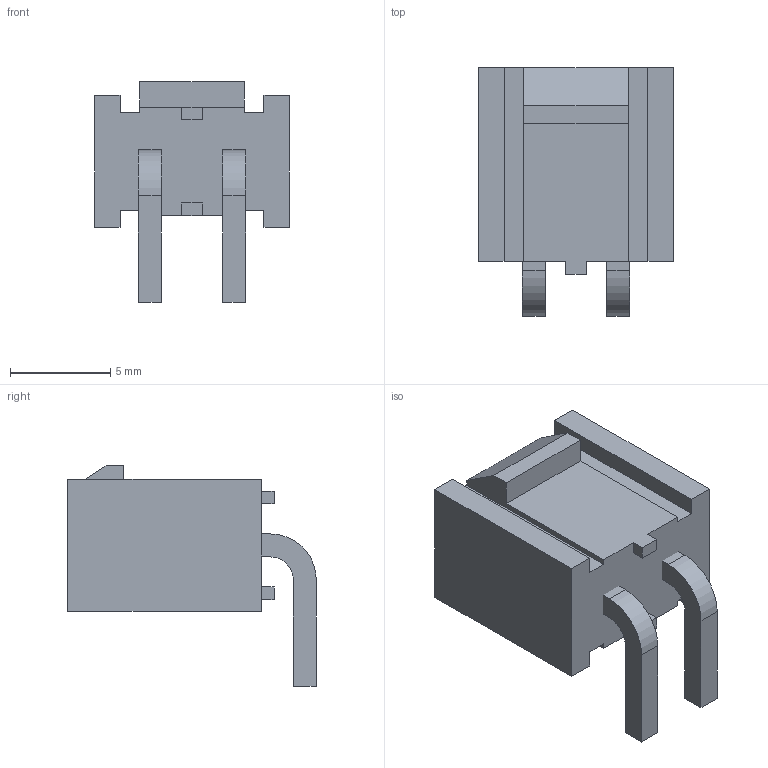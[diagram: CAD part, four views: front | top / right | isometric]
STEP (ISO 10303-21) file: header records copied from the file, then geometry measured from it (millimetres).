
FILE_DESCRIPTION(/* description */ ('STEP AP214'),/* implementation_level */ '2;1');
FILE_NAME(/* name */ 'IPBT-102-H1-T-S-RA-K',/* time_stamp */ '2026-03-26T19:41:58+01:00',/* author */ ('License CC BY-ND 4.0'),/* organization */ ('CADENAS'),/* preprocessor_version */ 'ST-DEVELOPER v20',/* originating_system */ 'PARTsolutions',/* authorisation */ ' ');
FILE_SCHEMA (('AUTOMOTIVE_DESIGN {1 0 10303 214 3 1 1}'));
Length unit declared in the file: inch
Products named in the file (4): IPBT-102-H1-T-S-RA-K; IPBT-102-H1-T-S-RA-K_terminal; IPBT-102-H1-S-T-RA_pin; IPBT-102-H1-S-T-RA2_pin
Assembly tree (3 placements, depth 2):
  IPBT-102-H1-T-S-RA-K
    IPBT-102-H1-T-S-RA-K_terminal
    IPBT-102-H1-S-T-RA_pin
    IPBT-102-H1-S-T-RA2_pin
Bounding box: 9.72 x 12.38 x 11 mm (x, y, z)
Volume: 372 mm3; surface area: 883.4 mm2
Topology: 3 solids, 3 shells, 88 faces, 231 edges, 154 vertices
Faces by surface type: plane 84, cylinder 4
Entity records: 2767 total; most frequent: CARTESIAN_POINT 477, ORIENTED_EDGE 462, DIRECTION 423, EDGE_CURVE 231, LINE 223, VECTOR 223, VERTEX_POINT 154, AXIS2_PLACEMENT_3D 100
